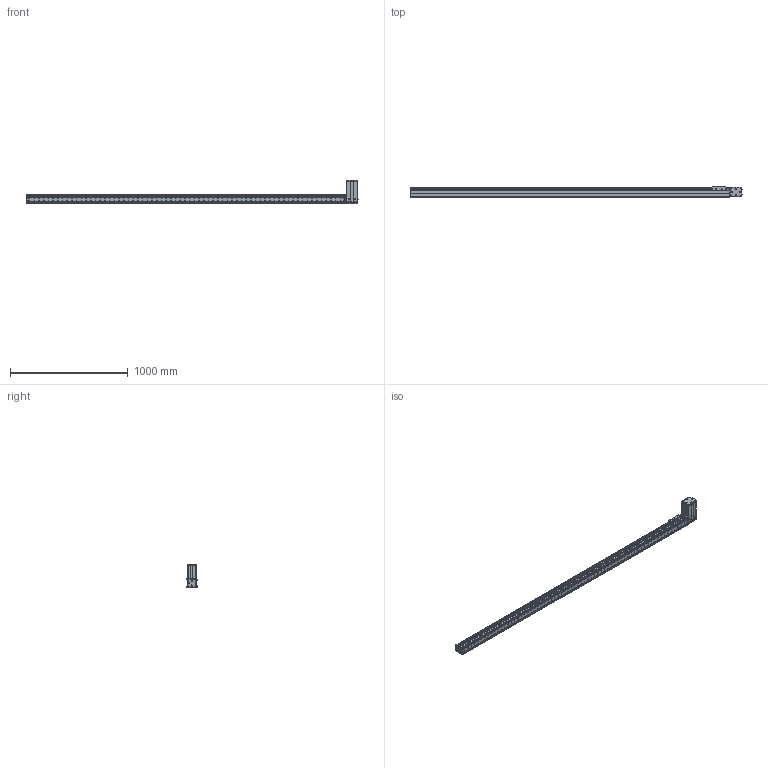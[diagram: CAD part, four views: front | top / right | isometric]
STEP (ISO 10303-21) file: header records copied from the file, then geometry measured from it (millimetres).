
FILE_DESCRIPTION((''),'2;1');
FILE_NAME('BE10_-BR-M_N-R0_IGS_PRT','2017-06-18T',(' '),(''),'PRO/ENGINEER BY PARAMETRIC TECHNOLOGY CORPORATION, 2015030','PRO/ENGINEER BY PARAMETRIC TECHNOLOGY CORPORATION, 2015030','');
FILE_SCHEMA(('CONFIG_CONTROL_DESIGN'));
Products named in the file (1): BE10_-BR-M_N-R0_IGS_PRT
Bounding box: 2820.8 x 85 x 200.22 mm (x, y, z)
Volume: 3528810.7 mm3; surface area: 2524557.2 mm2
Topology: 12 solids, 222 shells, 2516 faces, 6924 edges, 4637 vertices
Faces by surface type: cylinder 1268, plane 1085, cone 107, sphere 28, torus 25, bspline 3
Entity records: 82785 total; most frequent: CARTESIAN_POINT 16985, DIRECTION 14082, ORIENTED_EDGE 12872, EDGE_CURVE 6854, AXIS2_PLACEMENT_3D 5245, VERTEX_POINT 4633, VECTOR 3592, LINE 3592
